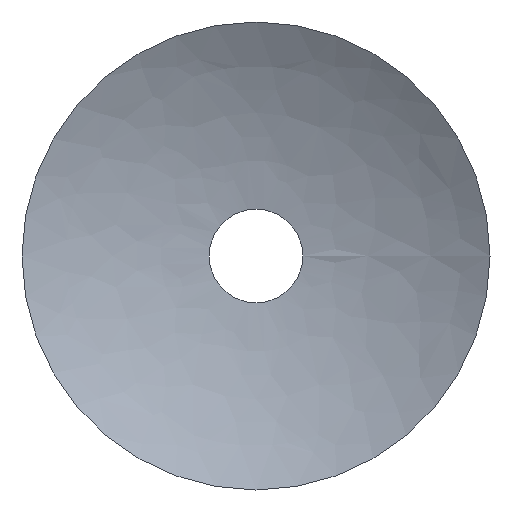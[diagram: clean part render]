
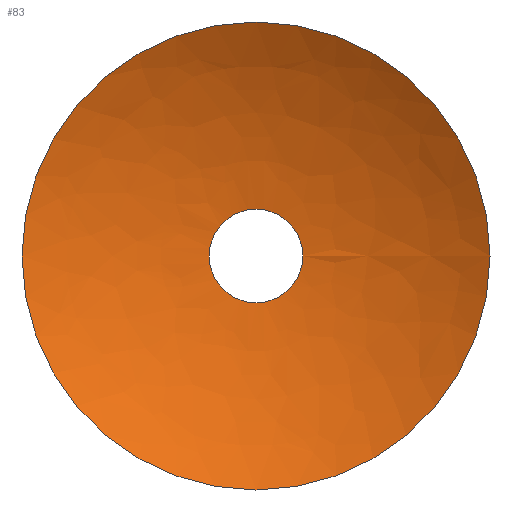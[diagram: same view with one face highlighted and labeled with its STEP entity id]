
A CAD part, front view. The second image highlights one B-rep face of the part: STEP entity #83.
In plain terms, the highlighted free-form (B-spline) face has degree [2, 2] with [9, 3] control points.
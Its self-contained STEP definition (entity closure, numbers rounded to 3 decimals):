
#7 = CARTESIAN_POINT ( 'NONE',  ( 0.781, 5.495, 0. ) ) ;
#8 = CARTESIAN_POINT ( 'NONE',  ( 4.52, 7.579, -6.26 ) ) ;
#9 = AXIS2_PLACEMENT_3D ( 'NONE', #69, #160, #203 ) ;
#14 = CARTESIAN_POINT ( 'NONE',  ( 20.781, 5.495, 0. ) ) ;
#22 = CARTESIAN_POINT ( 'NONE',  ( 4.52, 7.579, 6.26 ) ) ;
#26 = CARTESIAN_POINT ( 'NONE',  ( 12.781, 7.995, -2. ) ) ;
#29 = CARTESIAN_POINT ( 'NONE',  ( 10.781, 5.495, -10. ) ) ;
#34 = VERTEX_POINT ( 'NONE', #241 ) ;
#45 = CARTESIAN_POINT ( 'NONE',  ( 12.781, 7.995, 0. ) ) ;
#46 = CARTESIAN_POINT ( 'NONE',  ( 10.781, 5.495, 0. ) ) ;
#47 = CARTESIAN_POINT ( 'NONE',  ( 10.781, 7.995, 2. ) ) ;
#62 = CARTESIAN_POINT ( 'NONE',  ( 20.781, 5.495, 0. ) ) ;
#63 = EDGE_CURVE ( 'NONE', #118, #118, #214, .T. ) ;
#69 = CARTESIAN_POINT ( 'NONE',  ( 10.781, 7.995, 0. ) ) ;
#81 = DIRECTION ( 'NONE',  ( 1., 0., 0. ) ) ;
#82 = CARTESIAN_POINT ( 'NONE',  ( 20.781, 5.495, -10. ) ) ;
#83 = ADVANCED_FACE ( 'NONE', ( #104, #92 ), #183, .F. ) ;
#92 = FACE_OUTER_BOUND ( 'NONE', #145, .T. ) ;
#96 = CARTESIAN_POINT ( 'NONE',  ( 10.781, 7.995, -2. ) ) ;
#98 = CARTESIAN_POINT ( 'NONE',  ( 20.781, 5.495, 10. ) ) ;
#99 = CARTESIAN_POINT ( 'NONE',  ( 10.781, 7.579, -6.26 ) ) ;
#100 = CARTESIAN_POINT ( 'NONE',  ( 4.52, 7.579, 0. ) ) ;
#104 = FACE_OUTER_BOUND ( 'NONE', #199, .T. ) ;
#112 = DIRECTION ( 'NONE',  ( 0., -1., 0. ) ) ;
#114 = CARTESIAN_POINT ( 'NONE',  ( 12.781, 7.995, 2. ) ) ;
#115 = EDGE_CURVE ( 'NONE', #34, #34, #133, .T. ) ;
#116 = CARTESIAN_POINT ( 'NONE',  ( 17.041, 7.579, 6.26 ) ) ;
#117 = CARTESIAN_POINT ( 'NONE',  ( 17.041, 7.579, 0. ) ) ;
#118 = VERTEX_POINT ( 'NONE', #14 ) ;
#133 = CIRCLE ( 'NONE', #9, 2. ) ;
#144 = AXIS2_PLACEMENT_3D ( 'NONE', #46, #112, #81 ) ;
#145 = EDGE_LOOP ( 'NONE', ( #191 ) ) ;
#157 = CARTESIAN_POINT ( 'NONE',  ( 12.781, 7.995, 0. ) ) ;
#160 = DIRECTION ( 'NONE',  ( 0., -1., 0. ) ) ;
#176 = CARTESIAN_POINT ( 'NONE',  ( 17.041, 7.579, 0. ) ) ;
#177 = CARTESIAN_POINT ( 'NONE',  ( 8.781, 7.995, -2. ) ) ;
#178 = CARTESIAN_POINT ( 'NONE',  ( 20.781, 5.495, 0. ) ) ;
#180 = CARTESIAN_POINT ( 'NONE',  ( 0.781, 5.495, 10. ) ) ;
#183 =( BOUNDED_SURFACE ( )  B_SPLINE_SURFACE ( 2, 2, ( 
 ( #157, #176, #178 ),
 ( #114, #116, #98 ),
 ( #47, #219, #201 ),
 ( #235, #22, #180 ),
 ( #198, #100, #7 ),
 ( #177, #8, #237 ),
 ( #96, #99, #29 ),
 ( #26, #220, #82 ),
 ( #45, #117, #62 ) ),
 .UNSPECIFIED., .T., .F., .F. ) 
 B_SPLINE_SURFACE_WITH_KNOTS ( ( 3, 2, 2, 2, 3 ),
 ( 3, 3 ),
 ( 0., 0.25, 0.5, 0.75, 1. ),
 ( 0., 1. ),
 .UNSPECIFIED. ) 
 GEOMETRIC_REPRESENTATION_ITEM ( )  RATIONAL_B_SPLINE_SURFACE ( (
 ( 1., 0.979, 1.),
 ( 0.707, 0.692, 0.707),
 ( 1., 0.979, 1.),
 ( 0.707, 0.692, 0.707),
 ( 1., 0.979, 1.),
 ( 0.707, 0.692, 0.707),
 ( 1., 0.979, 1.),
 ( 0.707, 0.692, 0.707),
 ( 1., 0.979, 1.) ) ) 
 REPRESENTATION_ITEM ( '' )  SURFACE ( )  );
#191 = ORIENTED_EDGE ( 'NONE', *, *, #115, .F. ) ;
#198 = CARTESIAN_POINT ( 'NONE',  ( 8.781, 7.995, 0. ) ) ;
#199 = EDGE_LOOP ( 'NONE', ( #221 ) ) ;
#201 = CARTESIAN_POINT ( 'NONE',  ( 10.781, 5.495, 10. ) ) ;
#203 = DIRECTION ( 'NONE',  ( 1., 0., 0. ) ) ;
#214 = CIRCLE ( 'NONE', #144, 10. ) ;
#219 = CARTESIAN_POINT ( 'NONE',  ( 10.781, 7.579, 6.26 ) ) ;
#220 = CARTESIAN_POINT ( 'NONE',  ( 17.041, 7.579, -6.26 ) ) ;
#221 = ORIENTED_EDGE ( 'NONE', *, *, #63, .T. ) ;
#235 = CARTESIAN_POINT ( 'NONE',  ( 8.781, 7.995, 2. ) ) ;
#237 = CARTESIAN_POINT ( 'NONE',  ( 0.781, 5.495, -10. ) ) ;
#241 = CARTESIAN_POINT ( 'NONE',  ( 12.781, 7.995, 0. ) ) ;
